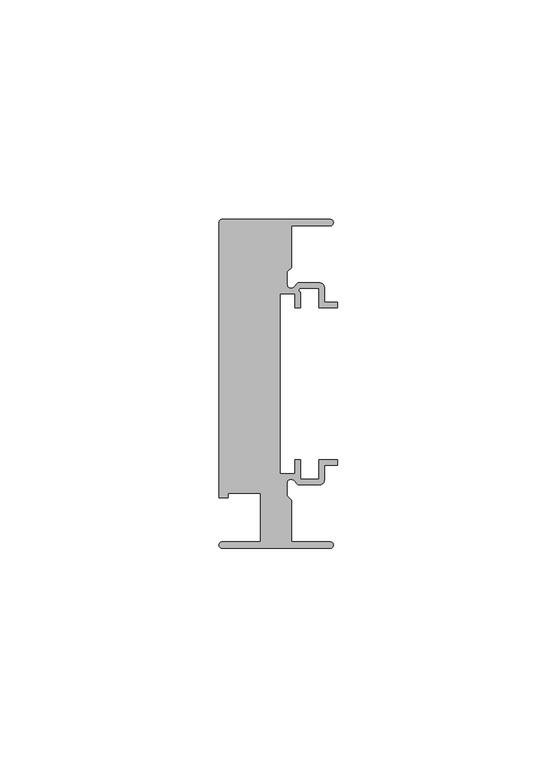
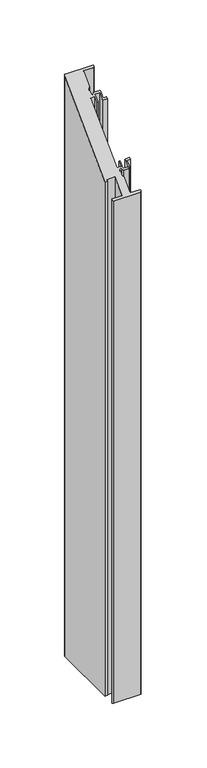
"""IFC4 building model written with IfcOpenShell, lengths in millimetres: member geometry, Прямоугольный импост : 5-AMG-1-Профиль 26Х75 Низ Л."""

from ifc_helpers import new_model, si_unit, frame, origin, place, context, project, spatial, polyline, circle_curve, ellipse_curve, source, transform, mapped, element, save
from ifc_brep_helpers import plane_surface, cylinder_surface, revolved_surface, advanced_brep


def member_eaf66a81(model_context):
    return source(origin(), model_context, "Body", "AdvancedBrep", [
        advanced_brep(
        [(-1.7, -37.5, -512.9489262), (-26.25, -37.5, -512.9489262), (-26.25, -36.0, -512.9489262), (-17.5, -36.0, -512.9489262), (-17.5, -25.0, -512.9489262), (-24.9359877, -25.0, -512.9489262), (-24.9359877, -26.0, -512.9489262), (-27.0, -26.0, -512.9489262), (-27.0, 36.75, -512.9489262), (-26.25, 37.5, -512.9489262), (-1.7, 37.5, -512.9489262), (-1.7, 36.0, -512.9489262), (-10.5, 36.0, -512.9489262), (-10.5, 26.5029437, -512.9489262), (-11.5, 25.5029437, -512.9489262), (-11.5, 22.6727922, -512.9489262), (-9.9636039, 22.0363961, -512.9489262), (-9.0, 23.0, -512.9489262), (-4.0, 23.0, -512.9489262), (-3.0, 22.0, -512.9489262), (-3.0, 18.55, -512.9489262), (0.0, 18.55, -512.9489262), (0.0, 17.35, -512.9489262), (-4.2, 17.35, -512.9489262), (-4.2, 21.8, -512.9489262), (-8.5029437, 21.8, -512.9489262), (-8.45, 20.8470563, -512.9489262), (-8.45, 17.35, -512.9489262), (-9.65, 17.35, -512.9489262), (-9.65, 20.55, -512.9489262), (-13.15, 20.55, -512.9489262), (-13.15, -20.55, -512.9489262), (-9.65, -20.55, -512.9489262), (-9.65, -17.35, -512.9489262), (-8.45, -17.35, -512.9489262), (-8.45, -21.8, -512.9489262), (-4.2, -21.8, -512.9489262), (-4.2, -17.35, -512.9489262), (0.0, -17.35, -512.9489262), (0.0, -18.55, -512.9489262), (-3.0, -18.55, -512.9489262), (-3.0, -22.0, -512.9489262), (-4.0, -23.0, -512.9489262), (-9.0, -23.0, -512.9489262), (-9.9636039, -22.0363961, -512.9489262), (-11.5, -22.6727922, -512.9489262), (-11.5, -25.5029437, -512.9489262), (-10.5, -26.5029437, -512.9489262), (-10.5, -36.0, -512.9489262), (-1.7, -36.0, -512.9489262), (-1.7, -36.0, -36.0), (-1.7, -37.5, -37.5), (-10.5, -36.0, -36.0), (-10.5, -26.5029437, -26.5029437), (-11.5, -25.5029437, -25.5029437), (-11.5, -22.6727922, -22.6727922), (-9.9636039, -22.0363961, -22.0363961), (-9.0, -23.0, -23.0), (-4.0, -23.0, -23.0), (-3.0, -22.0, -22.0), (-3.0, -18.55, -18.55), (0.0, -18.55, -18.55), (0.0, -17.35, -17.35), (-4.2, -17.35, -17.35), (-4.2, -21.8, -21.8), (-8.45, -21.8, -21.8), (-8.45, -17.35, -17.35), (-9.65, -17.35, -17.35), (-9.65, -20.55, -20.55), (-13.15, -20.55, -20.55), (-13.15, 20.55, 20.55), (-9.65, 20.55, 20.55), (-9.65, 17.35, 17.35), (-8.45, 17.35, 17.35), (-8.45, 20.8470563, 20.8470563), (-8.5029437, 21.8, 21.8), (-4.2, 21.8, 21.8), (-4.2, 17.35, 17.35), (0.0, 17.35, 17.35), (0.0, 18.55, 18.55), (-3.0, 18.55, 18.55), (-3.0, 22.0, 22.0), (-4.0, 23.0, 23.0), (-9.0, 23.0, 23.0), (-9.9636039, 22.0363961, 22.0363961), (-11.5, 22.6727922, 22.6727922), (-11.5, 25.5029437, 25.5029437), (-10.5, 26.5029437, 26.5029437), (-10.5, 36.0, 36.0), (-1.7, 36.0, 36.0), (-1.7, 37.5, 37.5), (-26.25, 37.5, 37.5), (-27.0, 36.75, 36.75), (-27.0, -26.0, -26.0), (-24.9359877, -26.0, -26.0), (-24.9359877, -25.0, -25.0), (-17.5, -25.0, -25.0), (-17.5, -36.0, -36.0), (-26.25, -36.0, -36.0), (-26.25, -37.5, -37.5)],
        [
            (0, 1),
            (1, 2, circle_curve(frame((-26.25, -36.75, -512.9489262), z_axis=(0.0, 0.0, -1.0), x_axis=(-1.0, 0.0, 0.0)), 0.75)),
            (2, 3),
            (3, 4),
            (4, 5),
            (5, 6),
            (6, 7),
            (7, 8),
            (8, 9, circle_curve(frame((-26.25, 36.75, -512.9489262), z_axis=(0.0, 0.0, -1.0), x_axis=(-1.0, 0.0, 0.0)), 0.75)),
            (9, 10),
            (10, 11, circle_curve(frame((-1.7, 36.75, -512.9489262), z_axis=(0.0, 0.0, -1.0), x_axis=(-1.0, 0.0, 0.0)), 0.75)),
            (11, 12),
            (12, 13),
            (13, 14),
            (14, 15),
            (15, 16, circle_curve(frame((-10.6, 22.6727922, -512.9489262), z_axis=(0.0, 0.0, 1.0), x_axis=(1.0, 0.0, 0.0)), 0.9)),
            (16, 17),
            (17, 18),
            (18, 19, circle_curve(frame((-4.0, 22.0, -512.9489262), z_axis=(0.0, 0.0, -1.0), x_axis=(1.0, 0.0, 0.0)), 1.0)),
            (19, 20),
            (20, 21),
            (21, 22),
            (22, 23),
            (23, 24),
            (24, 25),
            (25, 26, circle_curve(frame((-8.3343131, 21.3314262, -512.9489262), z_axis=(0.0, 0.0, 1.0), x_axis=(1.0, 0.0, 0.0)), 0.4979937)),
            (26, 27),
            (27, 28),
            (28, 29),
            (29, 30),
            (30, 31),
            (31, 32),
            (32, 33),
            (33, 34),
            (34, 35),
            (35, 36),
            (36, 37),
            (37, 38),
            (38, 39),
            (39, 40),
            (40, 41),
            (41, 42, circle_curve(frame((-4.0, -22.0, -512.9489262), z_axis=(0.0, 0.0, -1.0), x_axis=(1.0, 0.0, 0.0)), 1.0)),
            (42, 43),
            (43, 44),
            (44, 45, circle_curve(frame((-10.6, -22.6727922, -512.9489262), z_axis=(0.0, 0.0, 1.0), x_axis=(1.0, 0.0, 0.0)), 0.9)),
            (45, 46),
            (46, 47),
            (47, 48),
            (48, 49),
            (49, 0, circle_curve(frame((-1.7, -36.75, -512.9489262), z_axis=(0.0, 0.0, -1.0), x_axis=(-1.0, 0.0, 0.0)), 0.75)),
            (50, 51, ellipse_curve(frame((-1.7, -36.75, -36.75), z_axis=(0.0, 0.7071067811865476, -0.7071067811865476), x_axis=(0.0, 0.7071067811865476, 0.7071067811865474)), 1.0606602, 0.75)),
            (51, 0),
            (49, 50),
            (52, 50),
            (48, 52),
            (53, 52),
            (47, 53),
            (54, 53),
            (46, 54),
            (55, 54),
            (45, 55),
            (56, 55, ellipse_curve(frame((-10.6, -22.6727922, -22.6727922), z_axis=(0.0, -0.7071067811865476, 0.7071067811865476), x_axis=(0.0, -0.7071067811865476, -0.7071067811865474)), 1.2727922, 0.9)),
            (44, 56),
            (57, 56),
            (43, 57),
            (58, 57),
            (42, 58),
            (59, 58, ellipse_curve(frame((-4.0, -22.0, -22.0), z_axis=(0.0, 0.7071067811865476, -0.7071067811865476), x_axis=(0.0, 0.7071067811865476, 0.7071067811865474)), 1.4142136, 1.0)),
            (41, 59),
            (60, 59),
            (40, 60),
            (61, 60),
            (39, 61),
            (62, 61),
            (38, 62),
            (63, 62),
            (37, 63),
            (64, 63),
            (36, 64),
            (65, 64),
            (35, 65),
            (66, 65),
            (34, 66),
            (67, 66),
            (33, 67),
            (68, 67),
            (32, 68),
            (69, 68),
            (31, 69),
            (70, 69),
            (30, 70),
            (71, 70),
            (29, 71),
            (72, 71),
            (28, 72),
            (73, 72),
            (27, 73),
            (74, 73),
            (26, 74),
            (75, 74, ellipse_curve(frame((-8.3343131, 21.3314262, 21.3314262), z_axis=(0.0, -0.7071067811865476, 0.7071067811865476), x_axis=(0.0, -0.7071067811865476, -0.7071067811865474)), 0.7042694, 0.4979937)),
            (25, 75),
            (76, 75),
            (24, 76),
            (77, 76),
            (23, 77),
            (78, 77),
            (22, 78),
            (79, 78),
            (21, 79),
            (80, 79),
            (20, 80),
            (81, 80),
            (19, 81),
            (82, 81, ellipse_curve(frame((-4.0, 22.0, 22.0), z_axis=(0.0, 0.7071067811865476, -0.7071067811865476), x_axis=(0.0, 0.7071067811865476, 0.7071067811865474)), 1.4142136, 1.0)),
            (18, 82),
            (83, 82),
            (17, 83),
            (84, 83),
            (16, 84),
            (85, 84, ellipse_curve(frame((-10.6, 22.6727922, 22.6727922), z_axis=(0.0, -0.7071067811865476, 0.7071067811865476), x_axis=(0.0, -0.7071067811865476, -0.7071067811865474)), 1.2727922, 0.9)),
            (15, 85),
            (86, 85),
            (14, 86),
            (87, 86),
            (13, 87),
            (88, 87),
            (12, 88),
            (89, 88),
            (11, 89),
            (90, 89, ellipse_curve(frame((-1.7, 36.75, 36.75), z_axis=(0.0, 0.7071067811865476, -0.7071067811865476), x_axis=(0.0, 0.7071067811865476, 0.7071067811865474)), 1.0606602, 0.75)),
            (10, 90),
            (91, 90),
            (9, 91),
            (92, 91, ellipse_curve(frame((-26.25, 36.75, 36.75), z_axis=(0.0, 0.7071067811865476, -0.7071067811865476), x_axis=(0.0, 0.7071067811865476, 0.7071067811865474)), 1.0606602, 0.75)),
            (8, 92),
            (93, 92),
            (7, 93),
            (94, 93),
            (6, 94),
            (95, 94),
            (5, 95),
            (96, 95),
            (4, 96),
            (97, 96),
            (3, 97),
            (98, 97),
            (2, 98),
            (99, 98, ellipse_curve(frame((-26.25, -36.75, -36.75), z_axis=(0.0, 0.7071067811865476, -0.7071067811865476), x_axis=(0.0, 0.7071067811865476, 0.7071067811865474)), 1.0606602, 0.75)),
            (1, 99),
            (51, 99),
        ],
        [
            plane_surface(frame((0.0, -45.9021687, -512.9489262), z_axis=(0.0, 0.0, -1.0), x_axis=(-1.0, 0.0, 0.0))),
            cylinder_surface(frame((-1.7, -36.75, 0.0), z_axis=(0.0, 0.0, 1.0), x_axis=(-1.0, 0.0, 0.0)), 0.75),
            plane_surface(frame((-1.7, -36.0, 0.0), z_axis=(0.0, 1.0, 0.0), x_axis=(0.0, 0.0, -1.0))),
            plane_surface(frame((-10.5, -36.0, 0.0), z_axis=(1.0, 0.0, 0.0), x_axis=(0.0, 0.0, -1.0))),
            plane_surface(frame((-10.5, -26.5029437, 0.0), z_axis=(0.7071067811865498, 0.7071067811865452, 0.0), x_axis=(0.0, 0.0, -1.0))),
            plane_surface(frame((-11.5, -25.5029437, 0.0), z_axis=(1.0, 0.0, 0.0), x_axis=(0.0, 0.0, -1.0))),
            revolved_surface(polyline([(-9.7, -22.6727922, -512.9489262), (-9.7, -22.6727922, -21.772792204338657)]), (-10.6, -22.6727922, 0.0), (0.0, 0.0, -1.0)),
            plane_surface(frame((-9.9636039, -22.0363961, 0.0), z_axis=(-0.7071067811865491, -0.707106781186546, 0.0), x_axis=(0.0, 0.0, -1.0))),
            plane_surface(frame((-9.0, -23.0, 0.0), z_axis=(0.0, -1.0, 0.0), x_axis=(0.0, 0.0, -1.0))),
            cylinder_surface(frame((-4.0, -22.0, 0.0), z_axis=(0.0, 0.0, 1.0), x_axis=(1.0, 0.0, 0.0)), 1.0),
            plane_surface(frame((-3.0, -22.0, 0.0), z_axis=(1.0, 0.0, 0.0), x_axis=(0.0, 0.0, -1.0))),
            plane_surface(frame((-3.0, -18.55, 0.0), z_axis=(0.0, -1.0, 0.0), x_axis=(0.0, 0.0, -1.0))),
            plane_surface(frame((0.0, -18.55, 0.0), z_axis=(1.0, 0.0, 0.0), x_axis=(0.0, 0.0, -1.0))),
            plane_surface(frame((0.0, -17.35, 0.0), z_axis=(0.0, 1.0, 0.0), x_axis=(0.0, 0.0, -1.0))),
            plane_surface(frame((-4.2, -17.35, 0.0), z_axis=(-1.0, 0.0, 0.0), x_axis=(0.0, 0.0, -1.0))),
            plane_surface(frame((-4.2, -21.8, 0.0), z_axis=(0.0, 1.0, 0.0), x_axis=(0.0, 0.0, -1.0))),
            plane_surface(frame((-8.45, -21.8, 0.0), z_axis=(1.0, 0.0, 0.0), x_axis=(0.0, 0.0, -1.0))),
            plane_surface(frame((-8.45, -17.35, 0.0), z_axis=(0.0, 1.0, 0.0), x_axis=(0.0, 0.0, -1.0))),
            plane_surface(frame((-9.65, -17.35, 0.0), z_axis=(-1.0, 0.0, 0.0), x_axis=(0.0, 0.0, -1.0))),
            plane_surface(frame((-9.65, -20.55, 0.0), z_axis=(0.0, 1.0, 0.0), x_axis=(0.0, 0.0, -1.0))),
            plane_surface(frame((-13.15, -20.55, 0.0), z_axis=(1.0, 0.0, 0.0), x_axis=(0.0, 0.0, -1.0))),
            plane_surface(frame((-13.15, 20.55, 0.0), z_axis=(0.0, -1.0, 0.0), x_axis=(0.0, 0.0, -1.0))),
            plane_surface(frame((-9.65, 20.55, 0.0), z_axis=(-1.0, 0.0, 0.0), x_axis=(0.0, 0.0, -1.0))),
            plane_surface(frame((-9.65, 17.35, 0.0), z_axis=(0.0, -1.0, 0.0), x_axis=(0.0, 0.0, -1.0))),
            plane_surface(frame((-8.45, 17.35, 0.0), z_axis=(1.0, 0.0, 0.0), x_axis=(0.0, 0.0, -1.0))),
            revolved_surface(polyline([(-7.836319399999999, 21.3314262, -512.9489262), (-7.836319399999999, 21.3314262, 21.82941986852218)]), (-8.3343131, 21.3314262, 0.0), (0.0, 0.0, -1.0)),
            plane_surface(frame((-8.5029437, 21.8, 0.0), z_axis=(0.0, -1.0, 0.0), x_axis=(0.0, 0.0, -1.0))),
            plane_surface(frame((-4.2, 21.8, 0.0), z_axis=(-1.0, 0.0, 0.0), x_axis=(0.0, 0.0, -1.0))),
            plane_surface(frame((-4.2, 17.35, 0.0), z_axis=(0.0, -1.0, 0.0), x_axis=(0.0, 0.0, -1.0))),
            plane_surface(frame((0.0, 17.35, 0.0), z_axis=(1.0, 0.0, 0.0), x_axis=(0.0, 0.0, -1.0))),
            plane_surface(frame((0.0, 18.55, 0.0), z_axis=(0.0, 1.0, 0.0), x_axis=(0.0, 0.0, -1.0))),
            plane_surface(frame((-3.0, 18.55, 0.0), z_axis=(1.0, 0.0, 0.0), x_axis=(0.0, 0.0, -1.0))),
            cylinder_surface(frame((-4.0, 22.0, 0.0), z_axis=(0.0, 0.0, 1.0), x_axis=(1.0, 0.0, 0.0)), 1.0),
            plane_surface(frame((-4.0, 23.0, 0.0), z_axis=(0.0, 1.0, 0.0), x_axis=(0.0, 0.0, -1.0))),
            plane_surface(frame((-9.0, 23.0, 0.0), z_axis=(-0.7071067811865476, 0.7071067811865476, 0.0), x_axis=(0.0, 0.0, -1.0))),
            revolved_surface(polyline([(-9.7, 22.6727922, -512.9489262), (-9.7, 22.6727922, 23.572792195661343)]), (-10.6, 22.6727922, 0.0), (0.0, 0.0, -1.0)),
            plane_surface(frame((-11.5, 22.6727922, 0.0), z_axis=(1.0, 0.0, 0.0), x_axis=(0.0, 0.0, -1.0))),
            plane_surface(frame((-11.5, 25.5029437, 0.0), z_axis=(0.7071067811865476, -0.7071067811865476, 0.0), x_axis=(0.0, 0.0, -1.0))),
            plane_surface(frame((-10.5, 26.5029437, 0.0), z_axis=(1.0, 0.0, 0.0), x_axis=(0.0, 0.0, -1.0))),
            plane_surface(frame((-10.5, 36.0, 0.0), z_axis=(0.0, -1.0, 0.0), x_axis=(0.0, 0.0, -1.0))),
            cylinder_surface(frame((-1.7, 36.75, 0.0), z_axis=(0.0, 0.0, 1.0), x_axis=(-1.0, 0.0, 0.0)), 0.75),
            plane_surface(frame((-1.7, 37.5, 0.0), z_axis=(0.0, 1.0, 0.0), x_axis=(0.0, 0.0, -1.0))),
            cylinder_surface(frame((-26.25, 36.75, 0.0), z_axis=(0.0, 0.0, 1.0), x_axis=(-1.0, 0.0, 0.0)), 0.75),
            plane_surface(frame((-27.0, 36.75, 0.0), z_axis=(-1.0, 0.0, 0.0), x_axis=(0.0, 0.0, -1.0))),
            plane_surface(frame((-27.0, -26.0, 0.0), z_axis=(0.0, -1.0, 0.0), x_axis=(0.0, 0.0, -1.0))),
            plane_surface(frame((-24.9359877, -26.0, 0.0), z_axis=(1.0, 0.0, 0.0), x_axis=(0.0, 0.0, -1.0))),
            plane_surface(frame((-24.9359877, -25.0, 0.0), z_axis=(0.0, -1.0, 0.0), x_axis=(0.0, 0.0, -1.0))),
            plane_surface(frame((-17.5, -25.0, 0.0), z_axis=(-1.0, 0.0, 0.0), x_axis=(0.0, 0.0, -1.0))),
            plane_surface(frame((-17.5, -36.0, 0.0), z_axis=(0.0, 1.0, 0.0), x_axis=(0.0, 0.0, -1.0))),
            cylinder_surface(frame((-26.25, -36.75, 0.0), z_axis=(0.0, 0.0, 1.0), x_axis=(-1.0, 0.0, 0.0)), 0.75),
            plane_surface(frame((-26.25, -37.5, 0.0), z_axis=(0.0, -1.0, 0.0), x_axis=(0.0, 0.0, -1.0))),
            plane_surface(frame((304.8, 0.0, 0.0), z_axis=(0.0, -0.7071067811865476, 0.7071067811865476), x_axis=(0.0, -0.7071067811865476, -0.7071067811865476))),
        ],
        [
            (0, [[1, 2, 3, 4, 5, 6, 7, 8, 9, 10, 11, 12, 13, 14, 15, 16, 17, 18, 19, 20, 21, 22, 23, 24, 25, 26, 27, 28, 29, 30, 31, 32, 33, 34, 35, 36, 37, 38, 39, 40, 41, 42, 43, 44, 45, 46, 47, 48, 49, 50]]),
            (1, [[51, 52, -50, 53]]),
            (2, [[54, -53, -49, 55]]),
            (3, [[56, -55, -48, 57]]),
            (4, [[58, -57, -47, 59]]),
            (5, [[60, -59, -46, 61]]),
            (6, [[62, -61, -45, 63]]),
            (7, [[64, -63, -44, 65]]),
            (8, [[66, -65, -43, 67]]),
            (9, [[68, -67, -42, 69]]),
            (10, [[70, -69, -41, 71]]),
            (11, [[72, -71, -40, 73]]),
            (12, [[74, -73, -39, 75]]),
            (13, [[76, -75, -38, 77]]),
            (14, [[78, -77, -37, 79]]),
            (15, [[80, -79, -36, 81]]),
            (16, [[82, -81, -35, 83]]),
            (17, [[84, -83, -34, 85]]),
            (18, [[86, -85, -33, 87]]),
            (19, [[88, -87, -32, 89]]),
            (20, [[90, -89, -31, 91]]),
            (21, [[92, -91, -30, 93]]),
            (22, [[94, -93, -29, 95]]),
            (23, [[96, -95, -28, 97]]),
            (24, [[98, -97, -27, 99]]),
            (25, [[100, -99, -26, 101]]),
            (26, [[102, -101, -25, 103]]),
            (27, [[104, -103, -24, 105]]),
            (28, [[106, -105, -23, 107]]),
            (29, [[108, -107, -22, 109]]),
            (30, [[110, -109, -21, 111]]),
            (31, [[112, -111, -20, 113]]),
            (32, [[114, -113, -19, 115]]),
            (33, [[116, -115, -18, 117]]),
            (34, [[118, -117, -17, 119]]),
            (35, [[120, -119, -16, 121]]),
            (36, [[122, -121, -15, 123]]),
            (37, [[124, -123, -14, 125]]),
            (38, [[126, -125, -13, 127]]),
            (39, [[128, -127, -12, 129]]),
            (40, [[130, -129, -11, 131]]),
            (41, [[132, -131, -10, 133]]),
            (42, [[134, -133, -9, 135]]),
            (43, [[136, -135, -8, 137]]),
            (44, [[138, -137, -7, 139]]),
            (45, [[140, -139, -6, 141]]),
            (46, [[142, -141, -5, 143]]),
            (47, [[144, -143, -4, 145]]),
            (48, [[146, -145, -3, 147]]),
            (49, [[148, -147, -2, 149]]),
            (50, [[150, -149, -1, -52]]),
            (51, [[-51, -54, -56, -58, -60, -62, -64, -66, -68, -70, -72, -74, -76, -78, -80, -82, -84, -86, -88, -90, -92, -94, -96, -98, -100, -102, -104, -106, -108, -110, -112, -114, -116, -118, -120, -122, -124, -126, -128, -130, -132, -134, -136, -138, -140, -142, -144, -146, -148, -150]]),
        ],
    ),
    ])


if __name__ == "__main__":
    model = new_model("IFC4")
    model_context = context("Model", 3, world=origin())
    ifc_project = project(units=[si_unit("LENGTHUNIT", "METRE", prefix="MILLI")], contexts=[model_context])
    site = spatial("IfcSite", under=ifc_project)
    building = spatial("IfcBuilding", under=site)
    placement = place(None, origin())
    member_shape = member_eaf66a81(model_context)
    element("IfcMember", 1, ObjectType="Прямоугольный импост : 5-AMG-1-Профиль 26Х75 Низ Л", at=placement, inside=building, context=model_context, shape_type="MappedRepresentation", body=[
        mapped(member_shape, transform((0.0, 0.0, 0.0), x_axis=(1.0, 0.0, 0.0), y_axis=(0.0, 1.0, 0.0), z_axis=(0.0, 0.0, 1.0))),
    ])
    save(model, "model.ifc")
